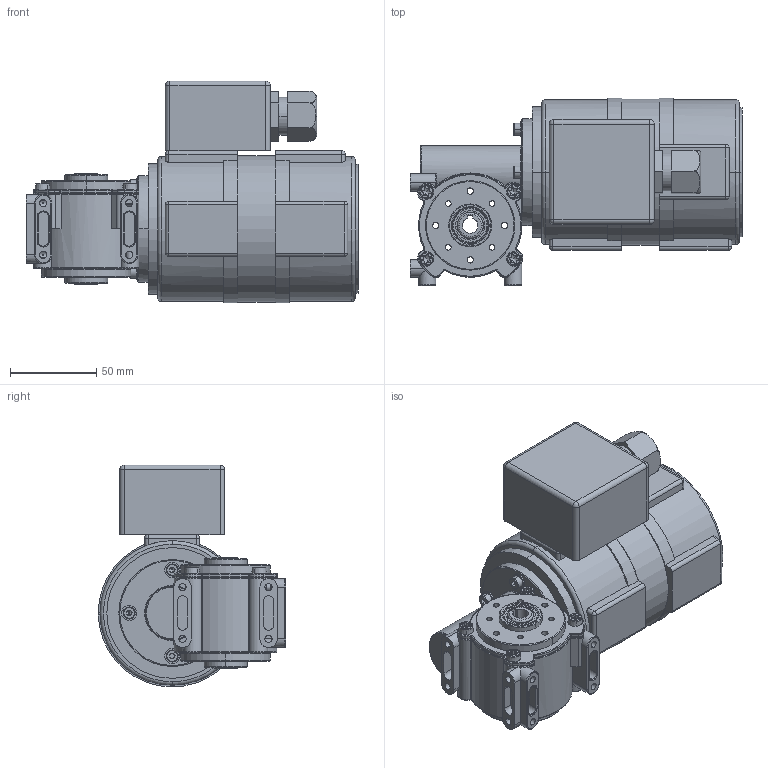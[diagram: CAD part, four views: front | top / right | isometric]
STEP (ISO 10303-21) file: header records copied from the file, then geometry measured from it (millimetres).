
FILE_DESCRIPTION (( 'STEP AP214' ), '1' );
FILE_NAME ('SN18H_45W_1400Upm_A.STEP', '2021-03-17T07:47:59', ( '' ), ( '' ), 'SwSTEP 2.0', 'SolidWorks 2019', '' );
FILE_SCHEMA (( 'AUTOMOTIVE_DESIGN' ));
Length unit declared in the file: millimetre
Products named in the file (1): SN18H_45W_1400Upm_A
Bounding box: 193 x 109 x 129 mm (x, y, z)
Surface area: 97267.7 mm2 (no closed solid volume)
Topology: 0 solids, 18 shells, 623 faces, 1703 edges, 1089 vertices
Faces by surface type: cylinder 316, plane 128, torus 127, cone 30, sphere 18, bspline 4
Entity records: 29330 total; most frequent: CARTESIAN_POINT 6571, DIRECTION 3589, ORIENTED_EDGE 3109, EDGE_CURVE 1673, AXIS2_PLACEMENT_3D 1500, VERTEX_POINT 1086, CIRCLE 880, EDGE_LOOP 709
